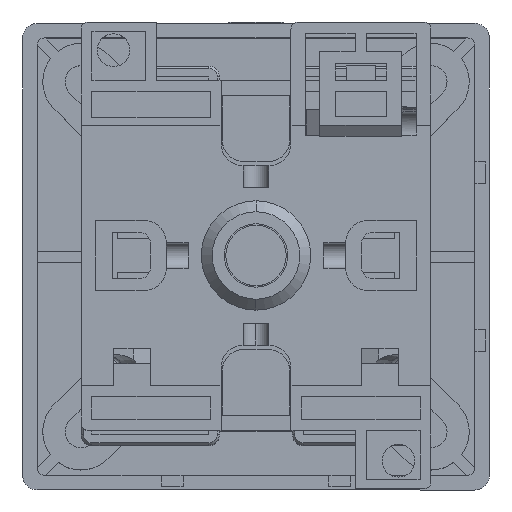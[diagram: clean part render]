
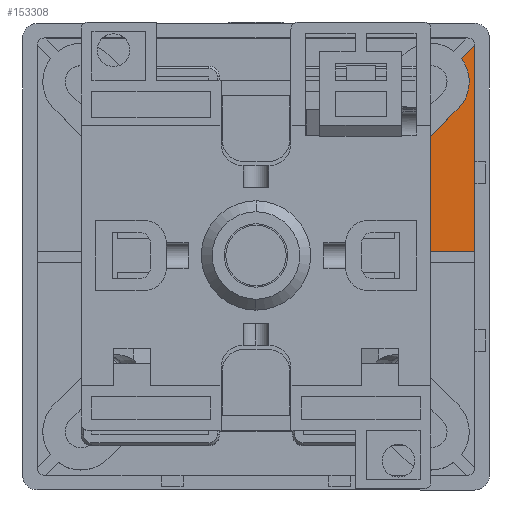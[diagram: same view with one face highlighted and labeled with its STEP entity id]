
A CAD part, top view. The second image highlights one B-rep face of the part: STEP entity #153308.
In plain terms, the highlighted planar face has unit normal (0, 0, 1).
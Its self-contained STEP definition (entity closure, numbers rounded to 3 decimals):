
#109 = ORIENTED_EDGE ( 'NONE', *, *, #13343, .T. ) ;
#2665 = VECTOR ( 'NONE', #31152, 1000. ) ;
#7744 = CARTESIAN_POINT ( 'NONE',  ( 6.361, -4.361, -249.182 ) ) ;
#7985 = VERTEX_POINT ( 'NONE', #66069 ) ;
#8622 = CARTESIAN_POINT ( 'NONE',  ( 6.361, -4.361, -249.182 ) ) ;
#8825 = VERTEX_POINT ( 'NONE', #186364 ) ;
#13343 = EDGE_CURVE ( 'NONE', #103203, #7985, #32960, .T. ) ;
#15878 = CARTESIAN_POINT ( 'NONE',  ( 34.566, 22.033, -249.182 ) ) ;
#16175 = CARTESIAN_POINT ( 'NONE',  ( 6.892, -5.641, -249.182 ) ) ;
#21904 = CARTESIAN_POINT ( 'NONE',  ( 16.823, -4.361, -249.182 ) ) ;
#22804 = FACE_OUTER_BOUND ( 'NONE', #141765, .T. ) ;
#23219 = DIRECTION ( 'NONE',  ( 0., 0., -1. ) ) ;
#24137 = CARTESIAN_POINT ( 'NONE',  ( 25.9, -4.361, -249.182 ) ) ;
#25426 = DIRECTION ( 'NONE',  ( -1., 0., 0. ) ) ;
#27892 = CARTESIAN_POINT ( 'NONE',  ( 6.892, -5.641, -249.182 ) ) ;
#31152 = DIRECTION ( 'NONE',  ( -0.707, -0.707, 0. ) ) ;
#31217 = VERTEX_POINT ( 'NONE', #15878 ) ;
#32960 = LINE ( 'NONE', #205734, #2665 ) ;
#33960 = DIRECTION ( 'NONE',  ( 0.707, 0.707, 0. ) ) ;
#43648 = CIRCLE ( 'NONE', #145793, 5.25 ) ;
#43904 = PLANE ( 'NONE',  #145823 ) ;
#44928 = VECTOR ( 'NONE', #171634, 1000. ) ;
#45675 = CIRCLE ( 'NONE', #64939, 4.6 ) ;
#46726 = DIRECTION ( 'NONE',  ( 0., 0., -1. ) ) ;
#47444 = AXIS2_PLACEMENT_3D ( 'NONE', #164741, #23219, #200084 ) ;
#48279 = CIRCLE ( 'NONE', #47444, 10. ) ;
#52450 = CARTESIAN_POINT ( 'NONE',  ( 30.361, 18.889, -249.182 ) ) ;
#56660 = AXIS2_PLACEMENT_3D ( 'NONE', #52450, #70154, #158545 ) ;
#64939 = AXIS2_PLACEMENT_3D ( 'NONE', #85699, #87974, #105605 ) ;
#66069 = CARTESIAN_POINT ( 'NONE',  ( 28.074, 9.177, -249.182 ) ) ;
#67339 = EDGE_CURVE ( 'NONE', #168631, #103203, #96913, .T. ) ;
#68282 = VECTOR ( 'NONE', #25426, 1000. ) ;
#70154 = DIRECTION ( 'NONE',  ( 0., 0., -1. ) ) ;
#72710 = LINE ( 'NONE', #27892, #160802 ) ;
#74506 = ORIENTED_EDGE ( 'NONE', *, *, #95928, .F. ) ;
#74879 = VERTEX_POINT ( 'NONE', #21904 ) ;
#81015 = ORIENTED_EDGE ( 'NONE', *, *, #118310, .T. ) ;
#81183 = EDGE_CURVE ( 'NONE', #31217, #201770, #72710, .T. ) ;
#81550 = CARTESIAN_POINT ( 'NONE',  ( 6.361, -5.111, -249.182 ) ) ;
#82927 = ORIENTED_EDGE ( 'NONE', *, *, #135022, .T. ) ;
#85699 = CARTESIAN_POINT ( 'NONE',  ( 21.361, -5.111, -249.182 ) ) ;
#86552 = ORIENTED_EDGE ( 'NONE', *, *, #175052, .F. ) ;
#87974 = DIRECTION ( 'NONE',  ( 0., 0., -1. ) ) ;
#91978 = VECTOR ( 'NONE', #111906, 1000. ) ;
#95928 = EDGE_CURVE ( 'NONE', #165880, #140772, #197542, .T. ) ;
#96349 = CARTESIAN_POINT ( 'NONE',  ( 24.361, 12.889, -249.182 ) ) ;
#96913 = CIRCLE ( 'NONE', #180802, 5.25 ) ;
#102101 = CARTESIAN_POINT ( 'NONE',  ( 30.361, 18.889, -249.182 ) ) ;
#103203 = VERTEX_POINT ( 'NONE', #172911 ) ;
#105605 = DIRECTION ( 'NONE',  ( -1., 0., 0. ) ) ;
#107315 = CARTESIAN_POINT ( 'NONE',  ( 36.361, -5.111, -249.182 ) ) ;
#111906 = DIRECTION ( 'NONE',  ( 0., 1., 0. ) ) ;
#113322 = DIRECTION ( 'NONE',  ( -1., 0., 0. ) ) ;
#115479 = ORIENTED_EDGE ( 'NONE', *, *, #81183, .F. ) ;
#115879 = VECTOR ( 'NONE', #33960, 1000. ) ;
#118310 = EDGE_CURVE ( 'NONE', #7985, #226416, #43648, .T. ) ;
#127576 = EDGE_CURVE ( 'NONE', #74879, #140772, #45675, .T. ) ;
#127780 = EDGE_CURVE ( 'NONE', #194197, #8825, #48279, .T. ) ;
#132679 = ORIENTED_EDGE ( 'NONE', *, *, #127780, .T. ) ;
#135022 = EDGE_CURVE ( 'NONE', #165880, #201770, #182698, .T. ) ;
#138032 = CARTESIAN_POINT ( 'NONE',  ( 13.943, 1.41, -249.182 ) ) ;
#140772 = VERTEX_POINT ( 'NONE', #24137 ) ;
#141140 = EDGE_CURVE ( 'NONE', #31217, #168631, #186209, .T. ) ;
#141433 = ORIENTED_EDGE ( 'NONE', *, *, #67339, .T. ) ;
#141765 = EDGE_LOOP ( 'NONE', ( #190327, #74506, #82927, #115479, #209677, #141433, #109, #81015, #86552, #132679, #156536 ) ) ;
#144351 = CARTESIAN_POINT ( 'NONE',  ( 21.217, 8.685, -249.182 ) ) ;
#145793 = AXIS2_PLACEMENT_3D ( 'NONE', #96349, #204728, #113322 ) ;
#145823 = AXIS2_PLACEMENT_3D ( 'NONE', #81550, #169213, #222171 ) ;
#152888 = EDGE_CURVE ( 'NONE', #74879, #8825, #201764, .T. ) ;
#153308 = ADVANCED_FACE ( 'NONE', ( #22804 ), #43904, .F. ) ;
#156536 = ORIENTED_EDGE ( 'NONE', *, *, #152888, .F. ) ;
#158545 = DIRECTION ( 'NONE',  ( -1., 0., 0. ) ) ;
#160802 = VECTOR ( 'NONE', #203997, 1000. ) ;
#164741 = CARTESIAN_POINT ( 'NONE',  ( 6.361, -5.111, -249.182 ) ) ;
#165281 = LINE ( 'NONE', #16175, #115879 ) ;
#165880 = VERTEX_POINT ( 'NONE', #177659 ) ;
#168631 = VERTEX_POINT ( 'NONE', #227480 ) ;
#169213 = DIRECTION ( 'NONE',  ( 0., 0., -1. ) ) ;
#171634 = DIRECTION ( 'NONE',  ( -1., 0., 0. ) ) ;
#172911 = CARTESIAN_POINT ( 'NONE',  ( 34.074, 15.177, -249.182 ) ) ;
#175052 = EDGE_CURVE ( 'NONE', #194197, #226416, #165281, .T. ) ;
#177657 = CARTESIAN_POINT ( 'NONE',  ( 36.361, 23.829, -249.182 ) ) ;
#177659 = CARTESIAN_POINT ( 'NONE',  ( 36.361, -4.361, -249.182 ) ) ;
#179675 = DIRECTION ( 'NONE',  ( -1., 0., 0. ) ) ;
#180802 = AXIS2_PLACEMENT_3D ( 'NONE', #102101, #46726, #179675 ) ;
#182698 = LINE ( 'NONE', #107315, #91978 ) ;
#186209 = CIRCLE ( 'NONE', #56660, 5.25 ) ;
#186364 = CARTESIAN_POINT ( 'NONE',  ( 16.333, -4.361, -249.182 ) ) ;
#190327 = ORIENTED_EDGE ( 'NONE', *, *, #127576, .T. ) ;
#194197 = VERTEX_POINT ( 'NONE', #138032 ) ;
#197542 = LINE ( 'NONE', #7744, #68282 ) ;
#200084 = DIRECTION ( 'NONE',  ( -1., 0., 0. ) ) ;
#201764 = LINE ( 'NONE', #8622, #44928 ) ;
#201770 = VERTEX_POINT ( 'NONE', #177657 ) ;
#203997 = DIRECTION ( 'NONE',  ( 0.707, 0.707, 0. ) ) ;
#204728 = DIRECTION ( 'NONE',  ( 0., 0., -1. ) ) ;
#205734 = CARTESIAN_POINT ( 'NONE',  ( 10.074, -8.823, -249.182 ) ) ;
#209677 = ORIENTED_EDGE ( 'NONE', *, *, #141140, .T. ) ;
#222171 = DIRECTION ( 'NONE',  ( -1., 0., 0. ) ) ;
#226416 = VERTEX_POINT ( 'NONE', #144351 ) ;
#227480 = CARTESIAN_POINT ( 'NONE',  ( 35.611, 18.889, -249.182 ) ) ;
